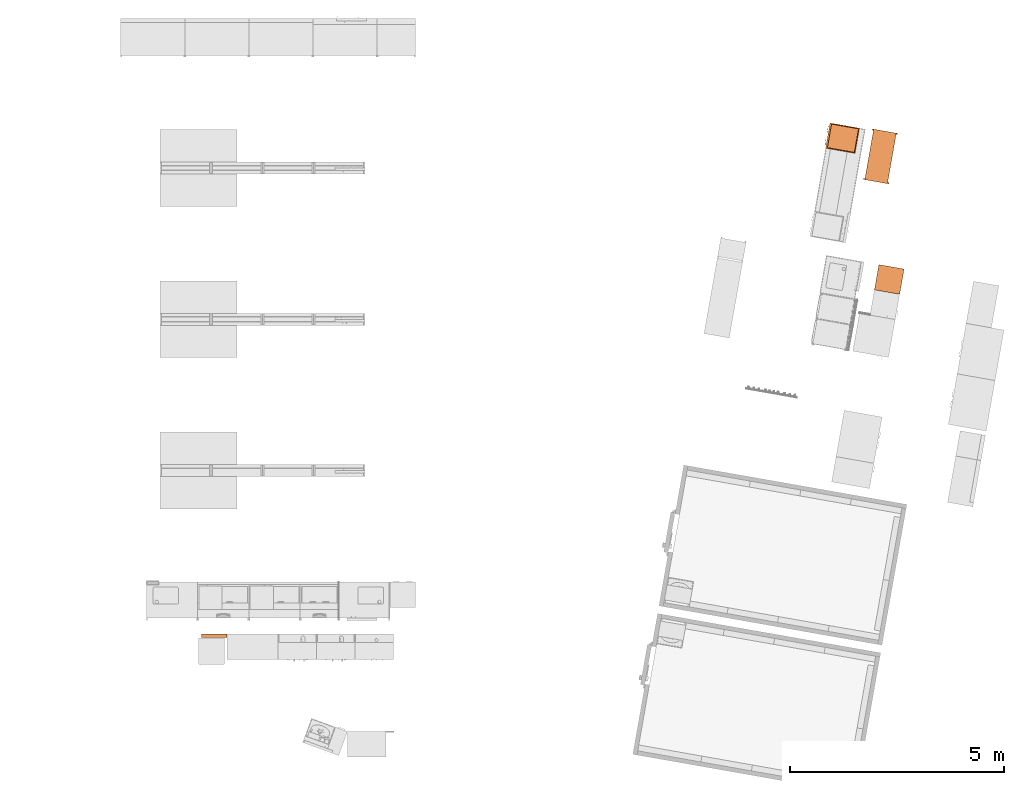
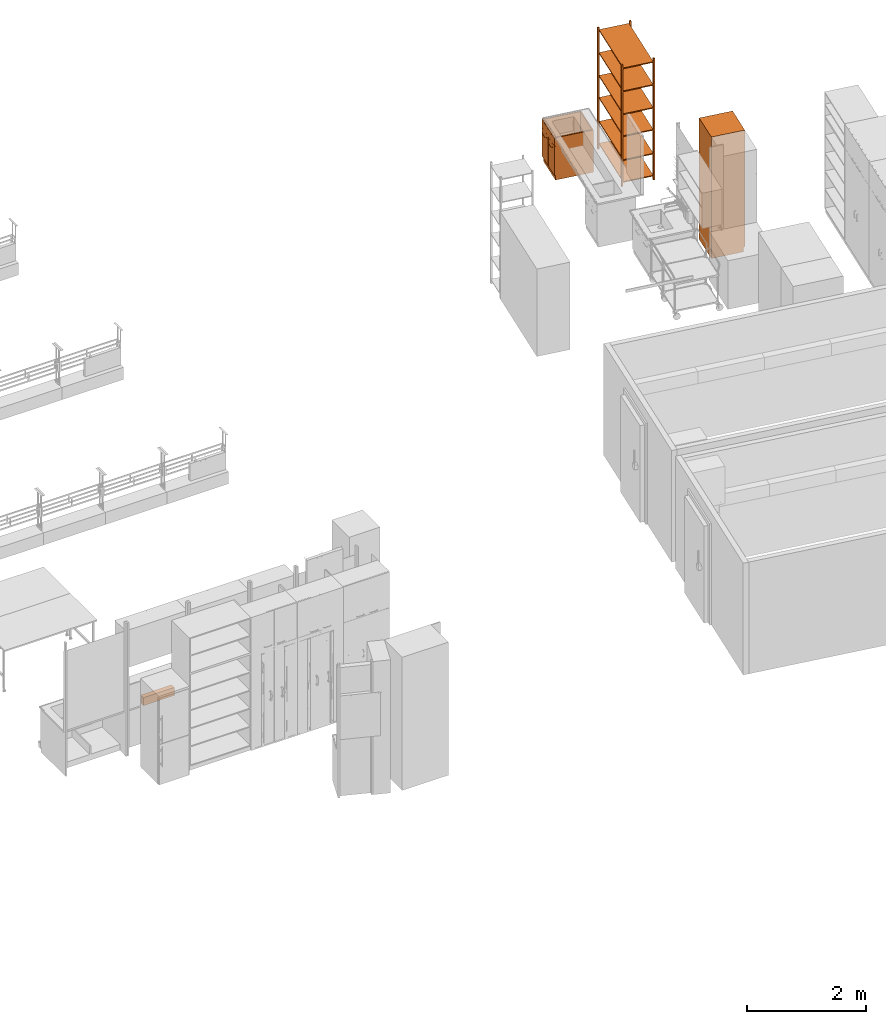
# One storey, part 20 of 32: 4 proxies.
"""IFC2X3 building model written with IfcOpenShell, lengths in metres."""

from ifc_helpers import new_model, entity, si_unit, converted_unit, derived_unit, direction, frame, frame_2d, origin, origin_2d_with_axis, place, context, subcontext, project, spatial, rectangle, extrude, faceted_brep, source, transform, mapped, material, material_list, type_object, type_shapes, element, save


model = new_model("IFC2X3")

# Units and contexts
model_context = context("Model", 3, precision=1e-05, world=origin(), true_north=direction((6.12303176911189e-17, 1.0)))
body_context = subcontext(model_context, "Body", "Model", "MODEL_VIEW")
ifc_project = project(units=[si_unit("LENGTHUNIT", "METRE"), si_unit("AREAUNIT", "SQUARE_METRE"), si_unit("VOLUMEUNIT", "CUBIC_METRE"), converted_unit("PLANEANGLEUNIT", "DEGREE", entity("IfcRatioMeasure", 0.0174532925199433), si_unit("PLANEANGLEUNIT", "RADIAN"), dimensions=[0, 0, 0, 0, 0, 0, 0]), si_unit("MASSUNIT", "GRAM", prefix="KILO"), derived_unit("MASSDENSITYUNIT", [(si_unit("MASSUNIT", "GRAM", prefix="KILO"), 1), (si_unit("LENGTHUNIT", "METRE"), -3)]), derived_unit("MOMENTOFINERTIAUNIT", [(si_unit("LENGTHUNIT", "METRE"), 4)]), si_unit("TIMEUNIT", "SECOND"), si_unit("FREQUENCYUNIT", "HERTZ"), si_unit("THERMODYNAMICTEMPERATUREUNIT", "DEGREE_CELSIUS"), derived_unit("THERMALTRANSMITTANCEUNIT", [(si_unit("MASSUNIT", "GRAM", prefix="KILO"), 1), (si_unit("THERMODYNAMICTEMPERATUREUNIT", "KELVIN"), -1), (si_unit("TIMEUNIT", "SECOND"), -3)]), derived_unit("VOLUMETRICFLOWRATEUNIT", [(si_unit("LENGTHUNIT", "METRE"), 3), (si_unit("TIMEUNIT", "SECOND"), -1)]), si_unit("ELECTRICCURRENTUNIT", "AMPERE"), si_unit("ELECTRICVOLTAGEUNIT", "VOLT"), si_unit("POWERUNIT", "WATT"), si_unit("FORCEUNIT", "NEWTON", prefix="KILO"), si_unit("ILLUMINANCEUNIT", "LUX"), si_unit("LUMINOUSFLUXUNIT", "LUMEN"), si_unit("LUMINOUSINTENSITYUNIT", "CANDELA"), derived_unit("USERDEFINED", [(si_unit("MASSUNIT", "GRAM", prefix="KILO"), -1), (si_unit("LENGTHUNIT", "METRE"), -2), (si_unit("TIMEUNIT", "SECOND"), 3), (si_unit("LUMINOUSFLUXUNIT", "LUMEN"), 1)]), derived_unit("LINEARVELOCITYUNIT", [(si_unit("LENGTHUNIT", "METRE"), 1), (si_unit("TIMEUNIT", "SECOND"), -1)]), si_unit("PRESSUREUNIT", "PASCAL"), derived_unit("USERDEFINED", [(si_unit("LENGTHUNIT", "METRE"), -2), (si_unit("MASSUNIT", "GRAM", prefix="KILO"), 1), (si_unit("TIMEUNIT", "SECOND"), -2)]), derived_unit("LINEARFORCEUNIT", [(si_unit("MASSUNIT", "GRAM", prefix="KILO"), 1), (si_unit("LENGTHUNIT", "METRE"), 1), (si_unit("TIMEUNIT", "SECOND"), -2), (si_unit("LENGTHUNIT", "METRE"), -1)]), derived_unit("PLANARFORCEUNIT", [(si_unit("MASSUNIT", "GRAM", prefix="KILO"), 1), (si_unit("LENGTHUNIT", "METRE"), 1), (si_unit("TIMEUNIT", "SECOND"), -2), (si_unit("LENGTHUNIT", "METRE"), -2)])], contexts=[model_context])

# Site, building, storey
site_placement = place(None, origin())
site = spatial("IfcSite", under=ifc_project, at=site_placement, Name="Default", CompositionType="ELEMENT")
building_placement = place(site_placement, origin())
building = spatial("IfcBuilding", under=site, at=building_placement, CompositionType="ELEMENT")
storey_placement = place(building_placement, origin())
storey = spatial("IfcBuildingStorey", under=building, at=storey_placement, Name="00 EG", CompositionType="ELEMENT", Elevation=0.0)

# Proxies
ifc_material_1 = material(Name="dh_Weiß")
building_element_proxy_type_1 = type_object("IfcBuildingElementProxyType", Name="dh_Einzel_ Elektrokanal:EK 60", PredefinedType="NOTDEFINED", material=ifc_material_1)
shared_shape_1 = source(origin(), body_context, "Body", "SweptSolid", [
    extrude(rectangle(XDim=0.600000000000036, YDim=0.093, at=frame_2d((-1.41553435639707e-15, -1.73472347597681e-17), x_axis=(1.0, 0.0))), frame((-0.299999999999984, 0.2535, 1.24999999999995)), (0.0, 0.0, 1.0), 0.00499999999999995),
    extrude(rectangle(XDim=0.093, YDim=0.600000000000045, at=frame_2d((0.0155, -2.72004641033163e-15), x_axis=(1.0, 0.0))), frame((-0.299999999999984, 0.269, 1.40999999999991), z_axis=(0.0, 0.0, 1.0), x_axis=(0.0, -1.0, 0.0)), (0.0, 0.0, 1.0), 0.00499999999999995),
    extrude(rectangle(XDim=0.6, YDim=0.093, at=frame_2d((0.0, 1.73472347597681e-17), x_axis=(1.0, 0.0))), frame((-0.3, 0.2535, 1.25499999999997), z_axis=(0.0, 0.0, 1.0), x_axis=(-1.0, 0.0, 0.0)), (0.0, 0.0, 1.0), 0.154999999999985),
])
type_shapes(building_element_proxy_type_1, [shared_shape_1])
proxy_1_placement = place(storey_placement, frame((12.6360000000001, 9.54399999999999, 0.0)))
element("IfcBuildingElementProxy", 1, at=proxy_1_placement, inside=storey, type_object=building_element_proxy_type_1, material=ifc_material_1, Name="dh_Einzel_ Elektrokanal:EK 60", ObjectType="dh_Einzel_ Elektrokanal:EK 60", context=body_context, shape_type="MappedRepresentation", body=[
    mapped(shared_shape_1, transform((0.0, 0.0, 0.0), scale=1.0)),
])
ifc_material_2 = material(Name="dh_Weiss")
ifc_material_3 = material(Name="dh_Grau")
ifc_material_list_1 = material_list([ifc_material_2, ifc_material_3])
ifc_material_list_2 = material_list([ifc_material_2, ifc_material_3])
building_element_proxy_type_2 = type_object("IfcBuildingElementProxyType", Name="dh_Laborhochregal:600x600x2000", PredefinedType="NOTDEFINED", material=ifc_material_list_2)
shared_shape_2 = source(origin(), body_context, "Body", "Brep", [
    faceted_brep([(0.279999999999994, 0.279999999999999, 2.26), (-0.279999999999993, 0.279999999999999, 2.26), (-0.279999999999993, -0.3, 2.26), (0.279999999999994, -0.3, 2.26), (0.279999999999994, 0.279999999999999, 2.24), (0.279999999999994, -0.3, 2.24), (-0.279999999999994, -0.3, 2.24), (-0.279999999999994, 0.279999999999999, 2.24)], [[[0, 1, 2, 3]], [[4, 5, 6, 7]], [[1, 0, 4, 7]], [[2, 1, 7, 6]], [[3, 2, 6, 5]], [[0, 3, 5, 4]]]),
    faceted_brep([(0.3, -0.3, 2.5), (-0.3, -0.3, 2.5), (-0.3, -0.3, 2.0), (0.3, -0.3, 2.0), (-0.279999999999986, -0.3, 2.48), (0.279999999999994, -0.3, 2.48), (0.279999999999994, -0.3, 2.02), (-0.279999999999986, -0.3, 2.02), (0.3, 0.3, 2.0), (-0.3, 0.3, 2.0), (-0.3, 0.3, 2.5), (0.3, 0.3, 2.5), (0.279999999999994, 0.279999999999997, 2.02), (-0.279999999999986, 0.279999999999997, 2.02), (-0.279999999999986, 0.279999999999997, 2.48), (0.279999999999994, 0.279999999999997, 2.48)], [[[0, 1, 2, 3], [4, 5, 6, 7]], [[8, 9, 10, 11]], [[0, 3, 8, 11]], [[7, 6, 12, 13]], [[2, 1, 10, 9]], [[3, 2, 9, 8]], [[1, 0, 11, 10]], [[5, 4, 14, 15]], [[4, 7, 13, 14]], [[14, 13, 12, 15]], [[15, 12, 6, 5]]]),
    faceted_brep([(0.279999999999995, 0.279999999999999, 1.628), (-0.279999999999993, 0.279999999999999, 1.628), (-0.279999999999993, -0.3, 1.628), (0.279999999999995, -0.3, 1.628), (0.279999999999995, 0.279999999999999, 1.608), (0.279999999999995, -0.3, 1.608), (-0.279999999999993, -0.3, 1.608), (-0.279999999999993, 0.279999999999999, 1.608)], [[[0, 1, 2, 3]], [[4, 5, 6, 7]], [[1, 0, 4, 7]], [[2, 1, 7, 6]], [[3, 2, 6, 5]], [[0, 3, 5, 4]]]),
    faceted_brep([(0.279999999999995, 0.279999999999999, 1.256), (-0.279999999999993, 0.279999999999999, 1.256), (-0.279999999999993, -0.3, 1.256), (0.279999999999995, -0.3, 1.256), (0.279999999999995, 0.279999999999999, 1.236), (0.279999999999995, -0.3, 1.236), (-0.279999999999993, -0.3, 1.236), (-0.279999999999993, 0.279999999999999, 1.236)], [[[0, 1, 2, 3]], [[4, 5, 6, 7]], [[1, 0, 4, 7]], [[2, 1, 7, 6]], [[3, 2, 6, 5]], [[0, 3, 5, 4]]]),
    faceted_brep([(0.279999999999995, 0.279999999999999, 0.511999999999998), (-0.279999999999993, 0.279999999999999, 0.511999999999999), (-0.279999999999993, -0.3, 0.511999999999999), (0.279999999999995, -0.3, 0.511999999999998), (0.279999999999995, 0.279999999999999, 0.491999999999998), (0.279999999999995, -0.3, 0.491999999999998), (-0.279999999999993, -0.3, 0.491999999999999), (-0.279999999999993, 0.279999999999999, 0.491999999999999)], [[[0, 1, 2, 3]], [[4, 5, 6, 7]], [[1, 0, 4, 7]], [[2, 1, 7, 6]], [[3, 2, 6, 5]], [[0, 3, 5, 4]]]),
    faceted_brep([(0.279999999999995, 0.279999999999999, 0.883999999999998), (-0.279999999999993, 0.279999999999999, 0.884), (-0.279999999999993, -0.3, 0.884), (0.279999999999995, -0.3, 0.883999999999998), (0.279999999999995, 0.279999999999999, 0.863999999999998), (0.279999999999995, -0.3, 0.863999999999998), (-0.279999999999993, -0.3, 0.863999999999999), (-0.279999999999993, 0.279999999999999, 0.863999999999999)], [[[0, 1, 2, 3]], [[4, 5, 6, 7]], [[1, 0, 4, 7]], [[2, 1, 7, 6]], [[3, 2, 6, 5]], [[0, 3, 5, 4]]]),
    faceted_brep([(0.3, -0.3, 2.0), (-0.3, -0.3, 2.0), (-0.3, -0.3, 0.0999999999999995), (0.3, -0.3, 0.0999999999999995), (-0.279999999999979, -0.3, 1.98), (0.280000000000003, -0.3, 1.98), (0.280000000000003, -0.3, 0.12), (-0.279999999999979, -0.3, 0.12), (0.3, 0.3, 0.0999999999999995), (-0.3, 0.3, 0.0999999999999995), (-0.3, 0.3, 2.0), (0.3, 0.3, 2.0), (0.280000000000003, 0.279999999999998, 0.12), (-0.279999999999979, 0.279999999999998, 0.12), (-0.279999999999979, 0.279999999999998, 1.98), (0.280000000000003, 0.279999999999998, 1.98)], [[[0, 1, 2, 3], [4, 5, 6, 7]], [[8, 9, 10, 11]], [[0, 3, 8, 11]], [[7, 6, 12, 13]], [[2, 1, 10, 9]], [[3, 2, 9, 8]], [[1, 0, 11, 10]], [[5, 4, 14, 15]], [[4, 7, 13, 14]], [[14, 13, 12, 15]], [[15, 12, 6, 5]]]),
    faceted_brep([(0.3, 0.3, 0.0999999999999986), (-0.3, 0.3, 0.0999999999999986), (-0.3, -0.280000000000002, 0.0999999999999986), (0.3, -0.280000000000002, 0.0999999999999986), (0.3, 0.3, 0.0), (0.3, -0.280000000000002, 0.0), (-0.3, -0.280000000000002, 0.0), (-0.3, 0.3, 0.0)], [[[0, 1, 2, 3]], [[4, 5, 6, 7]], [[1, 0, 4, 7]], [[2, 1, 7, 6]], [[3, 2, 6, 5]], [[0, 3, 5, 4]]]),
])
type_shapes(building_element_proxy_type_2, [shared_shape_2])
proxy_2_placement = place(storey_placement, frame((28.137453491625, 18.136375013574, 0.0), z_axis=(0.0, 0.0, 1.0), x_axis=(0.173648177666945, 0.984807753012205, 0.0)))
element("IfcBuildingElementProxy", 2, at=proxy_2_placement, inside=storey, type_object=building_element_proxy_type_2, material=ifc_material_list_1, Name="dh_Laborhochregal:600x600x2000", ObjectType="dh_Laborhochregal:600x600x2000", context=body_context, shape_type="MappedRepresentation", body=[
    mapped(shared_shape_2, transform((0.0, 0.0, 0.0), scale=1.0)),
])
ifc_material_4 = material(Name="dh_Griff")
ifc_material_list_3 = material_list([ifc_material_4, ifc_material_1, ifc_material_3])
ifc_material_list_4 = material_list([ifc_material_1, ifc_material_4])
building_element_proxy_type_3 = type_object("IfcBuildingElementProxyType", Name="dh_UB-Becken:UB12-TM", PredefinedType="NOTDEFINED", material=ifc_material_list_4)
shared_shape_3 = source(origin(), body_context, "Body", "Brep", [
    faceted_brep([(0.0749999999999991, -0.699999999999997, 0.630000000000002), (0.0719999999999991, -0.699999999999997, 0.627000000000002), (0.0689999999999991, -0.699999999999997, 0.630000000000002), (0.0719999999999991, -0.699999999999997, 0.633000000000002), (0.224999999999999, -0.699999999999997, 0.630000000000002), (0.221999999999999, -0.699999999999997, 0.627000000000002), (0.218999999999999, -0.699999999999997, 0.630000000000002), (0.221999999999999, -0.699999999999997, 0.633000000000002), (0.068999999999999, -0.717999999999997, 0.630000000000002), (0.07025591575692, -0.717999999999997, 0.631255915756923), (0.071999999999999, -0.717999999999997, 0.633000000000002), (0.0749999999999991, -0.717999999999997, 0.630000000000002), (0.0719999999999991, -0.717999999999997, 0.627000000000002), (0.0728076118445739, -0.727192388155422, 0.630000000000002), (0.0730984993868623, -0.725576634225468, 0.632479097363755), (0.075614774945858, -0.724385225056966, 0.632838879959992), (0.0819999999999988, -0.727999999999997, 0.633000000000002), (0.0819999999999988, -0.730999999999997, 0.630000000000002), (0.0770502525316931, -0.722949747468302, 0.630000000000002), (0.0819999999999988, -0.724999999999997, 0.630000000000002), (0.0758127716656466, -0.724187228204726, 0.627272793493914), (0.0738328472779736, -0.726167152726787, 0.62743149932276), (0.0819999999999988, -0.727999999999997, 0.627000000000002), (0.166641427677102, -0.728000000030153, 0.633000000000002), (0.14700000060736, -0.730999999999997, 0.630000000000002), (0.181760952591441, -0.730999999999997, 0.630000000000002), (0.112239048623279, -0.730999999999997, 0.630000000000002), (0.129619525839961, -0.728000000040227, 0.633000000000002), (0.142478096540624, -0.730999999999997, 0.630000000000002), (0.112239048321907, -0.724999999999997, 0.630000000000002), (0.211999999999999, -0.727999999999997, 0.633000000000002), (0.211999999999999, -0.724999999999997, 0.630000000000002), (0.181760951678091, -0.724999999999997, 0.630000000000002), (0.1515219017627, -0.724999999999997, 0.630000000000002), (0.146999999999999, -0.724999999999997, 0.630000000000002), (0.211999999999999, -0.730999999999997, 0.630000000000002), (0.211999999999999, -0.729744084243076, 0.631255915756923), (0.12735857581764, -0.727999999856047, 0.627000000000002), (0.211999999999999, -0.727999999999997, 0.627000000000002), (0.164380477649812, -0.727999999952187, 0.627000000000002), (0.221192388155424, -0.727192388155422, 0.630000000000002), (0.21957663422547, -0.726901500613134, 0.632479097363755), (0.218385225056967, -0.724385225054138, 0.632838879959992), (0.221999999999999, -0.717999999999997, 0.633000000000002), (0.224999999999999, -0.717999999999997, 0.630000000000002), (0.216949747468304, -0.722949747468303, 0.630000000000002), (0.218999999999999, -0.717999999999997, 0.630000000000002), (0.218187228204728, -0.724187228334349, 0.627272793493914), (0.220167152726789, -0.726167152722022, 0.62743149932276), (0.221999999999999, -0.717999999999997, 0.627000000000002)], [[[0, 1, 2, 3]], [[4, 5, 6, 7]], [[2, 8, 9, 10, 3]], [[3, 10, 11, 0]], [[11, 12, 1, 0]], [[1, 12, 8, 2]], [[9, 8, 13]], [[10, 14, 15]], [[9, 14, 10]], [[11, 10, 15]], [[14, 9, 13]], [[15, 14, 16]], [[17, 16, 14]], [[11, 15, 18]], [[18, 15, 19]], [[17, 14, 13]], [[19, 15, 16]], [[12, 20, 21]], [[17, 21, 22]], [[8, 12, 21]], [[11, 18, 20]], [[19, 22, 20]], [[8, 21, 13]], [[13, 21, 17]], [[19, 20, 18]], [[21, 20, 22]], [[11, 20, 12]], [[23, 24, 25]], [[26, 27, 16]], [[27, 26, 28, 24, 23]], [[29, 19, 16]], [[30, 31, 32]], [[27, 33, 34, 29]], [[33, 23, 32]], [[25, 35, 36, 30]], [[16, 17, 26]], [[33, 27, 23]], [[16, 27, 29]], [[23, 25, 30]], [[32, 23, 30]], [[34, 37, 29]], [[26, 17, 22]], [[38, 35, 25]], [[39, 34, 33, 32]], [[37, 28, 26]], [[39, 38, 25]], [[37, 26, 22]], [[22, 19, 29]], [[32, 31, 38]], [[38, 39, 32]], [[39, 25, 24, 28]], [[37, 22, 29]], [[34, 39, 37]], [[39, 28, 37]], [[36, 35, 40]], [[30, 41, 42]], [[36, 41, 30]], [[31, 30, 42]], [[41, 36, 40]], [[42, 41, 43]], [[44, 43, 41]], [[31, 42, 45]], [[45, 42, 46]], [[44, 41, 40]], [[46, 42, 43]], [[38, 47, 48]], [[44, 48, 49]], [[35, 38, 48]], [[31, 45, 47]], [[46, 49, 47]], [[35, 48, 40]], [[40, 48, 44]], [[46, 47, 45]], [[48, 47, 49]], [[31, 47, 38]], [[4, 7, 43, 44]], [[43, 7, 6, 46]], [[6, 5, 49, 46]], [[49, 5, 4, 44]]]),
    faceted_brep([(-0.222000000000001, -0.699999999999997, 0.630000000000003), (-0.225000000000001, -0.699999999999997, 0.627000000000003), (-0.228000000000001, -0.699999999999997, 0.630000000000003), (-0.225000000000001, -0.699999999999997, 0.633000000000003), (-0.0720000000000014, -0.699999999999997, 0.630000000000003), (-0.0750000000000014, -0.699999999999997, 0.627000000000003), (-0.0780000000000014, -0.699999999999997, 0.630000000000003), (-0.0750000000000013, -0.699999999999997, 0.633000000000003), (-0.228000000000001, -0.717999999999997, 0.630000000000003), (-0.22674408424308, -0.717999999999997, 0.631255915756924), (-0.225000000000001, -0.717999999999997, 0.633000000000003), (-0.222000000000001, -0.717999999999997, 0.630000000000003), (-0.225000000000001, -0.717999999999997, 0.627000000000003), (-0.224192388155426, -0.727192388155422, 0.630000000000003), (-0.223901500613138, -0.725576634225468, 0.632479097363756), (-0.221385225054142, -0.724385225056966, 0.632838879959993), (-0.215000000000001, -0.727999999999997, 0.633000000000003), (-0.215000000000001, -0.730999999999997, 0.630000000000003), (-0.219949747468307, -0.722949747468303, 0.630000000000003), (-0.215000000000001, -0.724999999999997, 0.630000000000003), (-0.221187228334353, -0.724187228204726, 0.627272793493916), (-0.223167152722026, -0.726167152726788, 0.627431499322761), (-0.215000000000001, -0.727999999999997, 0.627000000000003), (-0.130358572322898, -0.728000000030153, 0.633000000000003), (-0.14999999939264, -0.730999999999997, 0.630000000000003), (-0.115239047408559, -0.730999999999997, 0.630000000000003), (-0.184760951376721, -0.730999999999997, 0.630000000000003), (-0.167380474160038, -0.728000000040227, 0.633000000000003), (-0.154521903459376, -0.730999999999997, 0.630000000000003), (-0.184760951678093, -0.724999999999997, 0.630000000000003), (-0.0850000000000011, -0.727999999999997, 0.633000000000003), (-0.0850000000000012, -0.724999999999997, 0.630000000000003), (-0.115239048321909, -0.724999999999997, 0.630000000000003), (-0.1454780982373, -0.724999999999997, 0.630000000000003), (-0.150000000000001, -0.724999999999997, 0.630000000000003), (-0.0850000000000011, -0.730999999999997, 0.630000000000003), (-0.0850000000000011, -0.729744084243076, 0.631255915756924), (-0.16964142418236, -0.727999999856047, 0.627000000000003), (-0.0850000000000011, -0.727999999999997, 0.627000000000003), (-0.132619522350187, -0.727999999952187, 0.627000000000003), (-0.0758076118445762, -0.727192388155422, 0.630000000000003), (-0.0774233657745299, -0.726901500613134, 0.632479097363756), (-0.0786147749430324, -0.724385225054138, 0.632838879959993), (-0.0750000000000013, -0.717999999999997, 0.633000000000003), (-0.0720000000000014, -0.717999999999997, 0.630000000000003), (-0.0800502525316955, -0.722949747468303, 0.630000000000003), (-0.0780000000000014, -0.717999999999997, 0.630000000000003), (-0.0788127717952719, -0.72418722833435, 0.627272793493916), (-0.0768328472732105, -0.726167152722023, 0.627431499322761), (-0.0750000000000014, -0.717999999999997, 0.627000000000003)], [[[0, 1, 2, 3]], [[4, 5, 6, 7]], [[2, 8, 9, 10, 3]], [[3, 10, 11, 0]], [[11, 12, 1, 0]], [[1, 12, 8, 2]], [[9, 8, 13]], [[10, 14, 15]], [[9, 14, 10]], [[11, 10, 15]], [[14, 9, 13]], [[15, 14, 16]], [[17, 16, 14]], [[11, 15, 18]], [[18, 15, 19]], [[17, 14, 13]], [[19, 15, 16]], [[12, 20, 21]], [[17, 21, 22]], [[8, 12, 21]], [[11, 18, 20]], [[19, 22, 20]], [[8, 21, 13]], [[13, 21, 17]], [[19, 20, 18]], [[21, 20, 22]], [[11, 20, 12]], [[23, 24, 25]], [[26, 27, 16]], [[27, 26, 28, 24, 23]], [[29, 19, 16]], [[30, 31, 32]], [[27, 33, 34, 29]], [[33, 23, 32]], [[25, 35, 36, 30]], [[16, 17, 26]], [[33, 27, 23]], [[16, 27, 29]], [[23, 25, 30]], [[32, 23, 30]], [[34, 37, 29]], [[26, 17, 22]], [[38, 35, 25]], [[39, 34, 33, 32]], [[37, 28, 26]], [[39, 38, 25]], [[37, 26, 22]], [[22, 19, 29]], [[32, 31, 38]], [[38, 39, 32]], [[39, 25, 24, 28]], [[37, 22, 29]], [[34, 39, 37]], [[39, 28, 37]], [[36, 35, 40]], [[30, 41, 42]], [[36, 41, 30]], [[31, 30, 42]], [[41, 36, 40]], [[42, 41, 43]], [[44, 43, 41]], [[31, 42, 45]], [[45, 42, 46]], [[44, 41, 40]], [[46, 42, 43]], [[38, 47, 48]], [[44, 48, 49]], [[35, 38, 48]], [[31, 45, 47]], [[46, 49, 47]], [[35, 48, 40]], [[40, 48, 44]], [[46, 47, 45]], [[48, 47, 49]], [[31, 47, 38]], [[4, 7, 43, 44]], [[43, 7, 6, 46]], [[6, 5, 49, 46]], [[49, 5, 4, 44]]]),
    faceted_brep([(0.299999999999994, -0.680000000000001, 0.696000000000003), (0.299999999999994, -0.680000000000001, 0.1), (0.00200000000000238, -0.68, 0.1), (0.00200000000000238, -0.68, 0.696000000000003), (0.299999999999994, -0.700000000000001, 0.696000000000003), (0.00200000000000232, -0.7, 0.696000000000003), (0.00200000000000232, -0.7, 0.1), (0.299999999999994, -0.700000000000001, 0.1)], [[[0, 1, 2, 3]], [[4, 5, 6, 7]], [[1, 0, 4, 7]], [[2, 1, 7, 6]], [[3, 2, 6, 5]], [[0, 3, 5, 4]]]),
    faceted_brep([(0.0, -0.68, 0.1), (0.0, -0.68, 0.696000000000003), (0.0, -0.7, 0.696000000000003), (0.0, -0.7, 0.1), (-0.300000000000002, -0.679999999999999, 0.1), (-0.300000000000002, -0.699999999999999, 0.1), (-0.300000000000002, -0.679999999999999, 0.696000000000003), (-0.300000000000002, -0.699999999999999, 0.696000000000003)], [[[0, 1, 2, 3]], [[4, 0, 3, 5]], [[6, 4, 5, 7]], [[1, 6, 7, 2]], [[2, 7, 5, 3]], [[1, 0, 4, 6]]]),
    faceted_brep([(0.299999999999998, -0.699999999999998, 0.848000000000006), (-0.300000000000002, -0.699999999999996, 0.848000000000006), (-0.300000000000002, -0.699999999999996, 0.698000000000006), (0.299999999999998, -0.699999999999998, 0.698000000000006), (0.299999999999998, -0.679999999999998, 0.848000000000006), (0.299999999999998, -0.679999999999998, 0.698000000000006), (-0.300000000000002, -0.679999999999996, 0.698000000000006), (-0.300000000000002, -0.679999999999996, 0.848000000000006)], [[[0, 1, 2, 3]], [[4, 5, 6, 7]], [[5, 4, 0, 3]], [[6, 5, 3, 2]], [[7, 6, 2, 1]], [[4, 7, 1, 0]]]),
    faceted_brep([(0.300000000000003, 0.0, 0.870000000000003), (-0.299999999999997, 0.0, 0.870000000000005), (-0.300000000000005, -0.699999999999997, 0.870000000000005), (0.299999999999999, -0.699999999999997, 0.870000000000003), (-0.279999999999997, -0.0199571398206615, 0.870000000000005), (0.280000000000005, -0.0199571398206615, 0.870000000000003), (0.280000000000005, -0.659999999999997, 0.870000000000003), (-0.279999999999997, -0.659999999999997, 0.870000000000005), (0.3, 0.0, 0.0999999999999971), (0.3, -0.679999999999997, 0.0999999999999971), (-0.3, -0.679999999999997, 0.099999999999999), (-0.3, 0.0, 0.099999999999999), (-0.300000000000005, -0.679999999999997, 0.850000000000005), (-0.300000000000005, -0.699999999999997, 0.850000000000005), (0.300000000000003, -0.679999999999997, 0.850000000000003), (0.299999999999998, -0.699999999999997, 0.850000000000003), (0.280000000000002, -0.0199571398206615, 0.120000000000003), (-0.28, -0.0199571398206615, 0.120000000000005), (-0.28, -0.659999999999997, 0.120000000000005), (0.280000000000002, -0.659999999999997, 0.120000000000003)], [[[0, 1, 2, 3], [4, 5, 6, 7]], [[8, 9, 10, 11]], [[1, 0, 8, 11]], [[2, 1, 11, 10, 12, 13]], [[10, 9, 14, 12]], [[0, 3, 15, 14, 9, 8]], [[16, 17, 18, 19]], [[17, 16, 5, 4]], [[18, 17, 4, 7]], [[19, 18, 7, 6]], [[16, 19, 6, 5]], [[14, 15, 13, 12]], [[3, 2, 13, 15]]]),
    faceted_brep([(0.3, 0.0, 0.1), (-0.3, 0.0, 0.1), (-0.3, -0.679999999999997, 0.1), (0.3, -0.679999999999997, 0.1), (0.3, 0.0, 0.0), (0.3, -0.679999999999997, 0.0), (-0.3, -0.679999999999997, 0.0), (-0.3, 0.0, 0.0)], [[[0, 1, 2, 3]], [[4, 5, 6, 7]], [[1, 0, 4, 7]], [[2, 1, 7, 6]], [[3, 2, 6, 5]], [[0, 3, 5, 4]]]),
])
type_shapes(building_element_proxy_type_3, [shared_shape_3])
proxy_3_placement = place(storey_placement, frame((27.3890381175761, 21.3816388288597, 0.0), z_axis=(0.0, 0.0, 1.0), x_axis=(-0.173648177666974, -0.9848077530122, 0.0)))
element("IfcBuildingElementProxy", 3, at=proxy_3_placement, inside=storey, type_object=building_element_proxy_type_3, material=ifc_material_list_3, Name="dh_UB-Becken:UB12-TM", ObjectType="dh_UB-Becken:UB12-TM", context=body_context, shape_type="MappedRepresentation", body=[
    mapped(shared_shape_3, transform((0.0, 0.0, 0.0), scale=1.0)),
])
ifc_material_5 = material(Name="Aluminium")
ifc_material_6 = material(Name="UHMW, schwarz")
ifc_material_list_5 = material_list([ifc_material_5, ifc_material_6])
ifc_material_list_6 = material_list([ifc_material_6, ifc_material_5])
building_element_proxy_type_4 = type_object("IfcBuildingElementProxyType", Name="dh_Stahlregal:Stahlregal-FB6-120", PredefinedType="NOTDEFINED", material=ifc_material_list_6)
shared_shape_4 = source(origin(), body_context, "Body", "SweptSolid", [
    extrude(rectangle(XDim=0.54, YDim=1.2, at=origin_2d_with_axis()), frame((0.0, -0.3, 0.0800000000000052), z_axis=(0.0, 0.0, 1.0), x_axis=(0.0, 1.0, 0.0)), (0.0, 0.0, 1.0), 0.0199999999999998),
    extrude(rectangle(XDim=0.54, YDim=1.2, at=origin_2d_with_axis()), frame((0.0, -0.3, 0.53199999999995), z_axis=(0.0, 0.0, 1.0), x_axis=(0.0, 1.0, 0.0)), (0.0, 0.0, 1.0), 0.0199999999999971),
    extrude(rectangle(XDim=0.54, YDim=1.2, at=origin_2d_with_axis()), frame((0.0, -0.3, 1.0239999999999), z_axis=(0.0, 0.0, 1.0), x_axis=(0.0, 1.0, 0.0)), (0.0, 0.0, 1.0), 0.0199999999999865),
    extrude(rectangle(XDim=0.54, YDim=1.2, at=origin_2d_with_axis()), frame((0.0, -0.3, 1.47599999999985), z_axis=(0.0, 0.0, 1.0), x_axis=(0.0, 1.0, 0.0)), (0.0, 0.0, 1.0), 0.020000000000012),
    extrude(rectangle(XDim=0.54, YDim=1.2, at=origin_2d_with_axis()), frame((0.0, -0.3, 1.94799999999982), z_axis=(0.0, 0.0, 1.0), x_axis=(0.0, 1.0, 0.0)), (0.0, 0.0, 1.0), 0.0200000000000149),
    extrude(rectangle(XDim=0.54, YDim=1.2, at=origin_2d_with_axis()), frame((0.0, -0.3, 2.41999999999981), z_axis=(0.0, 0.0, 1.0), x_axis=(0.0, 1.0, 0.0)), (0.0, 0.0, 1.0), 0.0199999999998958),
    extrude(rectangle(XDim=0.0299999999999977, YDim=0.0299999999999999, at=frame_2d((-3.38271077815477e-17, 0.0), x_axis=(1.0, 0.0))), frame((-0.585000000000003, -0.585, 2.49499999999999)), (0.0, 0.0, 1.0), 0.00500000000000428),
    extrude(rectangle(XDim=0.0300000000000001, YDim=0.0300000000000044, at=frame_2d((0.0, 6.76542155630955e-17), x_axis=(1.0, 0.0))), frame((0.584999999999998, -0.015, 2.49499999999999), z_axis=(0.0, 0.0, 1.0), x_axis=(0.0, 1.0, 0.0)), (0.0, 0.0, 1.0), 0.00500000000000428),
    extrude(rectangle(XDim=0.0299999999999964, YDim=0.03, at=frame_2d((-3.38271077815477e-17, 0.0), x_axis=(1.0, 0.0))), frame((-0.585000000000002, -0.015, 2.49499999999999)), (0.0, 0.0, 1.0), 0.00500000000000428),
    extrude(rectangle(XDim=0.0300000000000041, YDim=0.0299999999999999, at=frame_2d((6.76542155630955e-17, 0.0), x_axis=(1.0, 0.0))), frame((0.584999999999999, -0.585, 2.49499999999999)), (0.0, 0.0, 1.0), 0.00500000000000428),
    extrude(rectangle(XDim=0.03, YDim=0.0299999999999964, at=frame_2d((0.0, 3.38271077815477e-17), x_axis=(1.0, 0.0))), frame((-0.585000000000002, -0.015, 0.00499999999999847), z_axis=(0.0, 0.0, 1.0), x_axis=(0.0, -1.0, 0.0)), (0.0, 0.0, 1.0), 2.49),
    extrude(rectangle(XDim=0.0299999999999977, YDim=0.0299999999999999, at=frame_2d((-3.38271077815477e-17, 0.0), x_axis=(1.0, 0.0))), frame((-0.585000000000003, -0.585, 0.00499999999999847)), (0.0, 0.0, 1.0), 2.49),
    extrude(rectangle(XDim=0.0300000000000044, YDim=0.0300000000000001, at=frame_2d((-6.76542155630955e-17, 0.0), x_axis=(1.0, 0.0))), frame((0.584999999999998, -0.015, 0.00499999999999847)), (0.0, 0.0, 1.0), 2.49),
    extrude(rectangle(XDim=0.0299999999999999, YDim=0.0300000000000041, at=frame_2d((0.0, -6.76542155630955e-17), x_axis=(1.0, 0.0))), frame((0.584999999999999, -0.585, 0.00499999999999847), z_axis=(0.0, 0.0, 1.0), x_axis=(0.0, 1.0, 0.0)), (0.0, 0.0, 1.0), 2.49),
    extrude(rectangle(XDim=0.0300000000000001, YDim=0.0300000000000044, at=origin_2d_with_axis()), frame((0.584999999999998, -0.015, 0.0), z_axis=(0.0, 0.0, 1.0), x_axis=(0.0, -1.0, 0.0)), (0.0, 0.0, 1.0), 0.005),
    extrude(rectangle(XDim=0.0299999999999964, YDim=0.03, at=frame_2d((3.38271077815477e-17, 0.0), x_axis=(1.0, 0.0))), frame((-0.585000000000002, -0.015, 0.0), z_axis=(0.0, 0.0, 1.0), x_axis=(-1.0, 0.0, 0.0)), (0.0, 0.0, 1.0), 0.005),
    extrude(rectangle(XDim=0.0299999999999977, YDim=0.0299999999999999, at=frame_2d((3.38271077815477e-17, 0.0), x_axis=(1.0, 0.0))), frame((-0.585000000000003, -0.585, 0.0), z_axis=(0.0, 0.0, 1.0), x_axis=(-1.0, 0.0, 0.0)), (0.0, 0.0, 1.0), 0.005),
    extrude(rectangle(XDim=0.0299999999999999, YDim=0.0300000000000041, at=origin_2d_with_axis()), frame((0.584999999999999, -0.585, 0.0), z_axis=(0.0, 0.0, 1.0), x_axis=(0.0, -1.0, 0.0)), (0.0, 0.0, 1.0), 0.005),
])
type_shapes(building_element_proxy_type_4, [shared_shape_4])
proxy_4_placement = place(storey_placement, frame((27.6382888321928, 21.0675787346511, 0.0), z_axis=(0.0, 0.0, 1.0), x_axis=(0.173648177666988, 0.984807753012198, 0.0)))
element("IfcBuildingElementProxy", 4, at=proxy_4_placement, inside=storey, type_object=building_element_proxy_type_4, material=ifc_material_list_5, Name="dh_Stahlregal:Stahlregal-FB6-120", ObjectType="dh_Stahlregal:Stahlregal-FB6-120", context=body_context, shape_type="MappedRepresentation", body=[
    mapped(shared_shape_4, transform((0.0, 0.0, 0.0), scale=1.0)),
])

save(model, "model.ifc")
